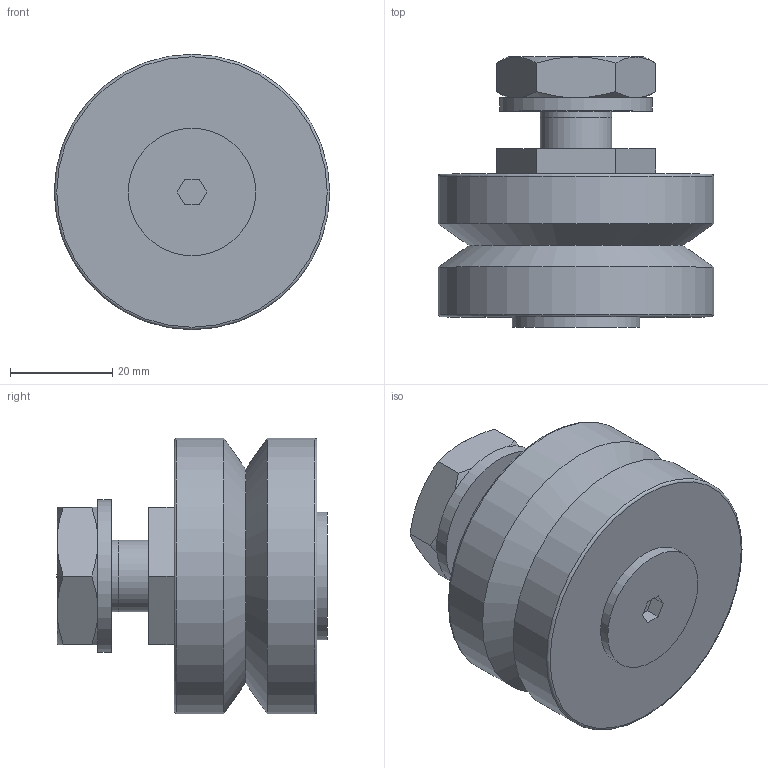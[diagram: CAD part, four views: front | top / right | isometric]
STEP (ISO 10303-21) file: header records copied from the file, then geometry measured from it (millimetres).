
FILE_DESCRIPTION(('STEP AP203'),'1');
FILE_NAME('//192.168.1.1/share/s-4 技術開発/s-4-4_CAD/s-4-4-6_見直し、確認済み/013 修正済み(済)/ジャーナル_TOP/NAS/NAS-54-C.step','2022-03-11T07:37:07',(' '),(' '),'Spatial InterOp 3D',' ',' ');
FILE_SCHEMA(('CONFIG_CONTROL_DESIGN'));
Length unit declared in the file: millimetre
Products named in the file (3): 1; 2; 3
Bounding box: 54 x 53 x 54 mm (x, y, z)
Volume: 72353.2 mm3; surface area: 14937.5 mm2
Topology: 3 solids, 3 shells, 52 faces, 113 edges, 70 vertices
Faces by surface type: plane 27, cone 14, cylinder 8, torus 2, sphere 1
Full cylindrical faces by diameter (mm): 12 x1, 14 x2, 15 x1, 25 x1, 30 x1, 54 x2
Entity records: 1534 total; most frequent: CARTESIAN_POINT 361, DIRECTION 212, ORIENTED_EDGE 192, EDGE_CURVE 96, AXIS2_PLACEMENT_3D 85, EDGE_LOOP 72, VERTEX_POINT 66, FACE_OUTER_BOUND 62
